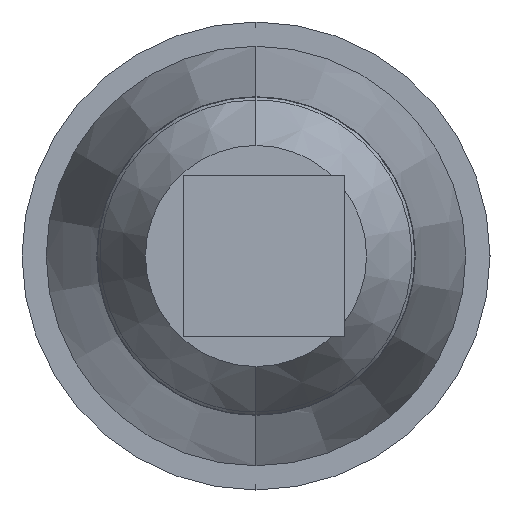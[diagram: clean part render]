
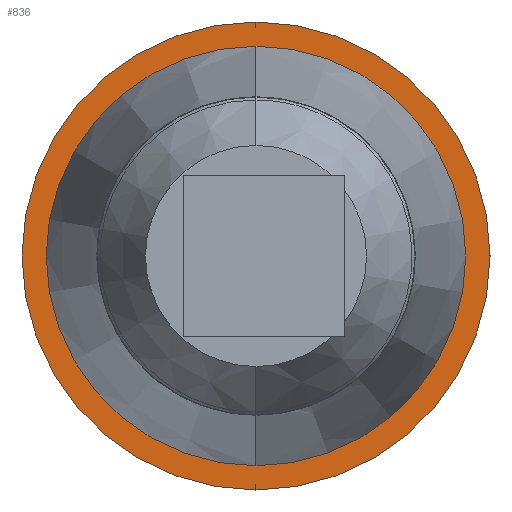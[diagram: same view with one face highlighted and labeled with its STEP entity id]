
A CAD part, left-side view. The second image highlights one B-rep face of the part: STEP entity #836.
In plain terms, the highlighted planar face has unit normal (-1, 0, 0).
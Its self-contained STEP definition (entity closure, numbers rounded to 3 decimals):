
#2 = DIRECTION ( 'NONE',  ( 1., 0., 0. ) ) ;
#19 = ORIENTED_EDGE ( 'NONE', *, *, #478, .F. ) ;
#138 = ORIENTED_EDGE ( 'NONE', *, *, #1194, .F. ) ;
#249 = PLANE ( 'NONE',  #540 ) ;
#271 = EDGE_LOOP ( 'NONE', ( #138, #1540 ) ) ;
#282 = VERTEX_POINT ( 'NONE', #2570 ) ;
#460 = CARTESIAN_POINT ( 'NONE',  ( 75.5, 6.75, 0. ) ) ;
#478 = EDGE_CURVE ( 'NONE', #2881, #282, #1563, .T. ) ;
#540 = AXIS2_PLACEMENT_3D ( 'NONE', #460, #987, #2444 ) ;
#568 = CARTESIAN_POINT ( 'NONE',  ( 75.5, 0.25, 6.5 ) ) ;
#696 = DIRECTION ( 'NONE',  ( -1., 0., 0. ) ) ;
#717 = CARTESIAN_POINT ( 'NONE',  ( 75.5, 0.25, 0. ) ) ;
#722 = EDGE_CURVE ( 'NONE', #1581, #821, #2452, .T. ) ;
#821 = VERTEX_POINT ( 'NONE', #568 ) ;
#836 = ADVANCED_FACE ( 'NONE', ( #1984, #2653 ), #249, .F. ) ;
#964 = DIRECTION ( 'NONE',  ( 0., 0., 1. ) ) ;
#987 = DIRECTION ( 'NONE',  ( 1., 0., 0. ) ) ;
#1194 = EDGE_CURVE ( 'NONE', #821, #1581, #1787, .T. ) ;
#1264 = AXIS2_PLACEMENT_3D ( 'NONE', #2910, #696, #1660 ) ;
#1267 = DIRECTION ( 'NONE',  ( 1., 0., 0. ) ) ;
#1427 = CARTESIAN_POINT ( 'NONE',  ( 75.5, 0.25, 7.25 ) ) ;
#1458 = AXIS2_PLACEMENT_3D ( 'NONE', #717, #2420, #964 ) ;
#1489 = CARTESIAN_POINT ( 'NONE',  ( 75.5, 0.25, 0. ) ) ;
#1540 = ORIENTED_EDGE ( 'NONE', *, *, #722, .F. ) ;
#1563 = CIRCLE ( 'NONE', #3015, 7.25 ) ;
#1581 = VERTEX_POINT ( 'NONE', #2068 ) ;
#1660 = DIRECTION ( 'NONE',  ( 0., 0., 1. ) ) ;
#1720 = DIRECTION ( 'NONE',  ( 0., 0., -1. ) ) ;
#1787 = CIRCLE ( 'NONE', #1458, 6.5 ) ;
#1984 = FACE_BOUND ( 'NONE', #271, .T. ) ;
#2014 = EDGE_CURVE ( 'NONE', #282, #2881, #3111, .T. ) ;
#2068 = CARTESIAN_POINT ( 'NONE',  ( 75.5, 0.25, -6.5 ) ) ;
#2420 = DIRECTION ( 'NONE',  ( -1., 0., 0. ) ) ;
#2422 = ORIENTED_EDGE ( 'NONE', *, *, #2014, .F. ) ;
#2444 = DIRECTION ( 'NONE',  ( 0., 0., -1. ) ) ;
#2452 = CIRCLE ( 'NONE', #1264, 6.5 ) ;
#2550 = AXIS2_PLACEMENT_3D ( 'NONE', #2755, #1267, #3009 ) ;
#2570 = CARTESIAN_POINT ( 'NONE',  ( 75.5, 0.25, -7.25 ) ) ;
#2653 = FACE_OUTER_BOUND ( 'NONE', #2734, .T. ) ;
#2734 = EDGE_LOOP ( 'NONE', ( #2422, #19 ) ) ;
#2755 = CARTESIAN_POINT ( 'NONE',  ( 75.5, 0.25, 0. ) ) ;
#2881 = VERTEX_POINT ( 'NONE', #1427 ) ;
#2910 = CARTESIAN_POINT ( 'NONE',  ( 75.5, 0.25, 0. ) ) ;
#3009 = DIRECTION ( 'NONE',  ( 0., 0., -1. ) ) ;
#3015 = AXIS2_PLACEMENT_3D ( 'NONE', #1489, #2, #1720 ) ;
#3111 = CIRCLE ( 'NONE', #2550, 7.25 ) ;
